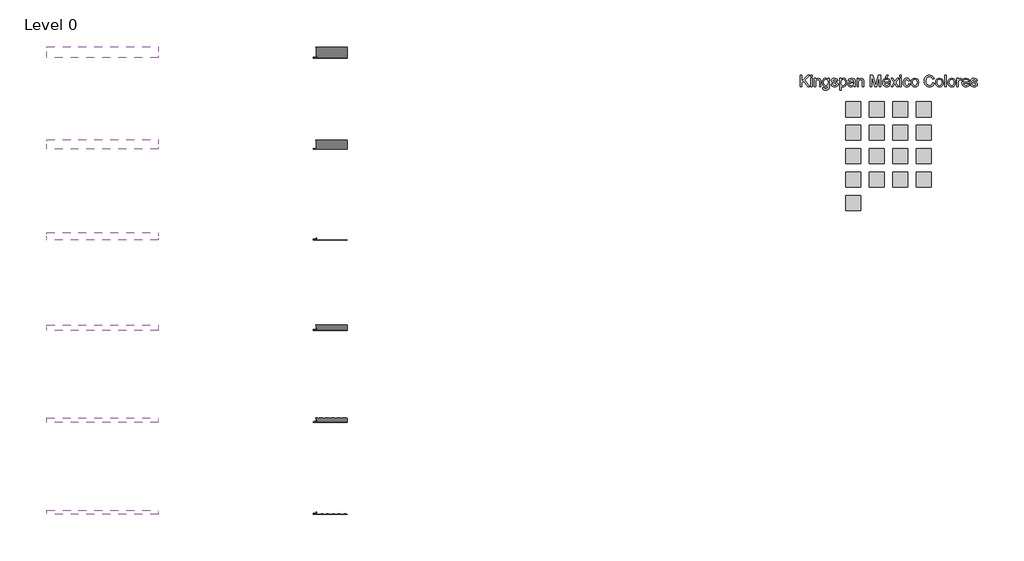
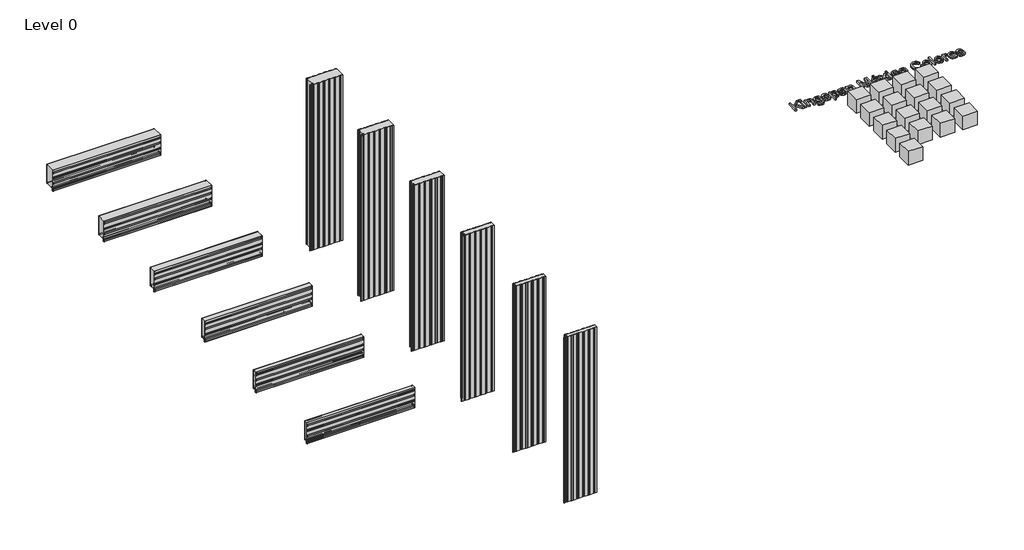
# One storey, incomplete: 18 proxies, 12 plates.
"""IFC4 building model written with IfcOpenShell, lengths in millimetres."""

from ifc_helpers import new_model, si_unit, origin, place, context, project, spatial, transform, mapped, element, save
from components import generic_models_b1469a46, ks_colour_sample_ks_colour_sample_0243efec, hz_050mm_5bb0dca9, hz_060mm_0e53f6a9, hz_075mm_a357266a, hz_100mm_cce7cdb2, hz_125mm_621c7a76, hz_150mm_8d4023c2, vt_050mm_9e8c6ad0, vt_060mm_d385d6ef, vt_075mm_737b0a10, vt_100mm_c336441d, vt_125mm_fb1efc63, vt_150mm_fdc8ce0f

model = new_model("IFC4")

# Units and contexts
model_context = context("Model", 3, world=origin())
ifc_project = project(units=[si_unit("LENGTHUNIT", "METRE", prefix="MILLI")], contexts=[model_context])

# Site, building, storey
site = spatial("IfcSite", under=ifc_project)
building = spatial("IfcBuilding", under=site)
storey = spatial("IfcBuildingStorey", under=building, Name="Level 0", Elevation=0.0)

# Proxies
placement = place(None, origin())
generic_models_shape = generic_models_b1469a46(model_context)
element("IfcBuildingElementProxy", 1, Name="KIP-MX_ColourRange_Spanish : KIP-MX_ColourRange_English", ObjectType="KIP-MX_ColourRange_Spanish : KIP-MX_ColourRange_English", at=placement, inside=storey, context=model_context, shape_type="MappedRepresentation", body=[
    mapped(generic_models_shape, transform((1966.0629502, 11802.7493823, 0.0), x_axis=(1.0, 0.0, 0.0), y_axis=(0.0, 1.0, 0.0), z_axis=(0.0, 0.0, 1.0))),
])
ks_colour_sample_ks_colour_sample_shape = ks_colour_sample_ks_colour_sample_0243efec(model_context)
element("IfcBuildingElementProxy", 2, Name="KS_Colour Sample : KS_Colour Sample", ObjectType="KS_Colour Sample : KS_Colour Sample", at=placement, inside=storey, context=model_context, shape_type="MappedRepresentation", body=[
    mapped(ks_colour_sample_ks_colour_sample_shape, transform((1501.0629502, 13781.2299273, 0.0), x_axis=(1.0, 0.0, 0.0), y_axis=(0.0, 1.0, 0.0), z_axis=(0.0, 0.0, 1.0))),
])
element("IfcBuildingElementProxy", 3, Name="KS_Colour Sample : KS_Colour Sample", ObjectType="KS_Colour Sample : KS_Colour Sample", at=placement, inside=storey, context=model_context, shape_type="MappedRepresentation", body=[
    mapped(ks_colour_sample_ks_colour_sample_shape, transform((1811.0629502, 13781.2299273, 0.0), x_axis=(1.0, 0.0, 0.0), y_axis=(0.0, 1.0, 0.0), z_axis=(0.0, 0.0, 1.0))),
])
element("IfcBuildingElementProxy", 4, Name="KS_Colour Sample : KS_Colour Sample", ObjectType="KS_Colour Sample : KS_Colour Sample", at=placement, inside=storey, context=model_context, shape_type="MappedRepresentation", body=[
    mapped(ks_colour_sample_ks_colour_sample_shape, transform((2121.0629502, 13781.2299273, 0.0), x_axis=(1.0, 0.0, 0.0), y_axis=(0.0, 1.0, 0.0), z_axis=(0.0, 0.0, 1.0))),
])
element("IfcBuildingElementProxy", 5, Name="KS_Colour Sample : KS_Colour Sample", ObjectType="KS_Colour Sample : KS_Colour Sample", at=placement, inside=storey, context=model_context, shape_type="MappedRepresentation", body=[
    mapped(ks_colour_sample_ks_colour_sample_shape, transform((2431.0629502, 13781.2299273, 0.0), x_axis=(1.0, 0.0, 0.0), y_axis=(0.0, 1.0, 0.0), z_axis=(0.0, 0.0, 1.0))),
])
element("IfcBuildingElementProxy", 6, Name="KS_Colour Sample : KS_Colour Sample", ObjectType="KS_Colour Sample : KS_Colour Sample", at=placement, inside=storey, context=model_context, shape_type="MappedRepresentation", body=[
    mapped(ks_colour_sample_ks_colour_sample_shape, transform((1501.0629502, 13471.2299273, 0.0), x_axis=(1.0, 0.0, 0.0), y_axis=(0.0, 1.0, 0.0), z_axis=(0.0, 0.0, 1.0))),
])
element("IfcBuildingElementProxy", 7, Name="KS_Colour Sample : KS_Colour Sample", ObjectType="KS_Colour Sample : KS_Colour Sample", at=placement, inside=storey, context=model_context, shape_type="MappedRepresentation", body=[
    mapped(ks_colour_sample_ks_colour_sample_shape, transform((1811.0629502, 13471.2299273, 0.0), x_axis=(1.0, 0.0, 0.0), y_axis=(0.0, 1.0, 0.0), z_axis=(0.0, 0.0, 1.0))),
])
element("IfcBuildingElementProxy", 8, Name="KS_Colour Sample : KS_Colour Sample", ObjectType="KS_Colour Sample : KS_Colour Sample", at=placement, inside=storey, context=model_context, shape_type="MappedRepresentation", body=[
    mapped(ks_colour_sample_ks_colour_sample_shape, transform((2121.0629502, 13471.2299273, 0.0), x_axis=(1.0, 0.0, 0.0), y_axis=(0.0, 1.0, 0.0), z_axis=(0.0, 0.0, 1.0))),
])
element("IfcBuildingElementProxy", 9, Name="KS_Colour Sample : KS_Colour Sample", ObjectType="KS_Colour Sample : KS_Colour Sample", at=placement, inside=storey, context=model_context, shape_type="MappedRepresentation", body=[
    mapped(ks_colour_sample_ks_colour_sample_shape, transform((2431.0629502, 13471.2299273, 0.0), x_axis=(1.0, 0.0, 0.0), y_axis=(0.0, 1.0, 0.0), z_axis=(0.0, 0.0, 1.0))),
])
element("IfcBuildingElementProxy", 10, Name="KS_Colour Sample : KS_Colour Sample", ObjectType="KS_Colour Sample : KS_Colour Sample", at=placement, inside=storey, context=model_context, shape_type="MappedRepresentation", body=[
    mapped(ks_colour_sample_ks_colour_sample_shape, transform((1501.0629502, 13161.2299273, 0.0), x_axis=(1.0, 0.0, 0.0), y_axis=(0.0, 1.0, 0.0), z_axis=(0.0, 0.0, 1.0))),
])
element("IfcBuildingElementProxy", 11, Name="KS_Colour Sample : KS_Colour Sample", ObjectType="KS_Colour Sample : KS_Colour Sample", at=placement, inside=storey, context=model_context, shape_type="MappedRepresentation", body=[
    mapped(ks_colour_sample_ks_colour_sample_shape, transform((1811.0629502, 13161.2299273, 0.0), x_axis=(1.0, 0.0, 0.0), y_axis=(0.0, 1.0, 0.0), z_axis=(0.0, 0.0, 1.0))),
])
element("IfcBuildingElementProxy", 12, Name="KS_Colour Sample : KS_Colour Sample", ObjectType="KS_Colour Sample : KS_Colour Sample", at=placement, inside=storey, context=model_context, shape_type="MappedRepresentation", body=[
    mapped(ks_colour_sample_ks_colour_sample_shape, transform((2121.0629502, 13161.2299273, 0.0), x_axis=(1.0, 0.0, 0.0), y_axis=(0.0, 1.0, 0.0), z_axis=(0.0, 0.0, 1.0))),
])
element("IfcBuildingElementProxy", 13, Name="KS_Colour Sample : KS_Colour Sample", ObjectType="KS_Colour Sample : KS_Colour Sample", at=placement, inside=storey, context=model_context, shape_type="MappedRepresentation", body=[
    mapped(ks_colour_sample_ks_colour_sample_shape, transform((2431.0629502, 13161.2299273, 0.0), x_axis=(1.0, 0.0, 0.0), y_axis=(0.0, 1.0, 0.0), z_axis=(0.0, 0.0, 1.0))),
])
element("IfcBuildingElementProxy", 14, Name="KS_Colour Sample : KS_Colour Sample", ObjectType="KS_Colour Sample : KS_Colour Sample", at=placement, inside=storey, context=model_context, shape_type="MappedRepresentation", body=[
    mapped(ks_colour_sample_ks_colour_sample_shape, transform((1501.0629502, 12851.2299273, 0.0), x_axis=(1.0, 0.0, 0.0), y_axis=(0.0, 1.0, 0.0), z_axis=(0.0, 0.0, 1.0))),
])
element("IfcBuildingElementProxy", 15, Name="KS_Colour Sample : KS_Colour Sample", ObjectType="KS_Colour Sample : KS_Colour Sample", at=placement, inside=storey, context=model_context, shape_type="MappedRepresentation", body=[
    mapped(ks_colour_sample_ks_colour_sample_shape, transform((1811.0629502, 12851.2299273, 0.0), x_axis=(1.0, 0.0, 0.0), y_axis=(0.0, 1.0, 0.0), z_axis=(0.0, 0.0, 1.0))),
])
element("IfcBuildingElementProxy", 16, Name="KS_Colour Sample : KS_Colour Sample", ObjectType="KS_Colour Sample : KS_Colour Sample", at=placement, inside=storey, context=model_context, shape_type="MappedRepresentation", body=[
    mapped(ks_colour_sample_ks_colour_sample_shape, transform((2121.0629502, 12851.2299273, 0.0), x_axis=(1.0, 0.0, 0.0), y_axis=(0.0, 1.0, 0.0), z_axis=(0.0, 0.0, 1.0))),
])
element("IfcBuildingElementProxy", 17, Name="KS_Colour Sample : KS_Colour Sample", ObjectType="KS_Colour Sample : KS_Colour Sample", at=placement, inside=storey, context=model_context, shape_type="MappedRepresentation", body=[
    mapped(ks_colour_sample_ks_colour_sample_shape, transform((2431.0629502, 12851.2299273, 0.0), x_axis=(1.0, 0.0, 0.0), y_axis=(0.0, 1.0, 0.0), z_axis=(0.0, 0.0, 1.0))),
])
element("IfcBuildingElementProxy", 18, Name="KS_Colour Sample : KS_Colour Sample", ObjectType="KS_Colour Sample : KS_Colour Sample", at=placement, inside=storey, context=model_context, shape_type="MappedRepresentation", body=[
    mapped(ks_colour_sample_ks_colour_sample_shape, transform((1501.0629502, 12541.2299273, 0.0), x_axis=(1.0, 0.0, 0.0), y_axis=(0.0, 1.0, 0.0), z_axis=(0.0, 0.0, 1.0))),
])

# Plates
hz_050mm_shape = hz_050mm_5bb0dca9(model_context)
element("IfcPlate", 19, ObjectType="KIP-MEX-KSS-1067-R19-CP-Hz-SL_SL : Hz 050mm", at=placement, inside=storey, context=model_context, shape_type="MappedRepresentation", body=[
    mapped(hz_050mm_shape, transform((-8438.7250935, 8468.7418563, 2134.0), x_axis=(1.0, 0.0, 0.0), y_axis=(0.0, 1.0, 0.0), z_axis=(0.0, 0.0, 1.0))),
])
hz_060mm_shape = hz_060mm_0e53f6a9(model_context)
element("IfcPlate", 20, ObjectType="KIP-MEX-KSS-1067-R19-CP-Hz-SL_SL : Hz 060mm", at=placement, inside=storey, context=model_context, shape_type="MappedRepresentation", body=[
    mapped(hz_060mm_shape, transform((-8438.7250935, 9693.0962077, 2134.0), x_axis=(1.0, 0.0, 0.0), y_axis=(0.0, 1.0, 0.0), z_axis=(0.0, 0.0, 1.0))),
])
hz_075mm_shape = hz_075mm_a357266a(model_context)
element("IfcPlate", 21, ObjectType="KIP-MEX-KSS-1067-R19-CP-Hz-SL_SL : Hz 075mm", at=placement, inside=storey, context=model_context, shape_type="MappedRepresentation", body=[
    mapped(hz_075mm_shape, transform((-8438.7250935, 10927.2962077, 2134.0), x_axis=(1.0, 0.0, 0.0), y_axis=(0.0, 1.0, 0.0), z_axis=(0.0, 0.0, 1.0))),
])
hz_100mm_shape = hz_100mm_cce7cdb2(model_context)
element("IfcPlate", 22, ObjectType="KIP-MEX-KSS-1067-R19-CP-Hz-SL_SL : Hz 100mm", at=placement, inside=storey, context=model_context, shape_type="MappedRepresentation", body=[
    mapped(hz_100mm_shape, transform((-8438.7250935, 12150.3733554, 2134.0), x_axis=(1.0, 0.0, 0.0), y_axis=(0.0, 1.0, 0.0), z_axis=(0.0, 0.0, 1.0))),
])
hz_125mm_shape = hz_125mm_621c7a76(model_context)
element("IfcPlate", 23, ObjectType="KIP-MEX-KSS-1067-R19-CP-Hz-SL_SL : Hz 125mm", at=placement, inside=storey, context=model_context, shape_type="MappedRepresentation", body=[
    mapped(hz_125mm_shape, transform((-8438.7250935, 13377.5488626, 2134.0), x_axis=(1.0, 0.0, 0.0), y_axis=(0.0, 1.0, 0.0), z_axis=(0.0, 0.0, 1.0))),
])
hz_150mm_shape = hz_150mm_8d4023c2(model_context)
element("IfcPlate", 24, ObjectType="KIP-MEX-KSS-1067-R19-CP-Hz-SL_SL : Hz 150mm", at=placement, inside=storey, context=model_context, shape_type="MappedRepresentation", body=[
    mapped(hz_150mm_shape, transform((-8438.7250935, 14614.4207339, 2134.0), x_axis=(1.0, 0.0, 0.0), y_axis=(0.0, 1.0, 0.0), z_axis=(0.0, 0.0, 1.0))),
])
vt_050mm_shape = vt_050mm_9e8c6ad0(model_context)
element("IfcPlate", 25, ObjectType="KIP-MEX-KSS-1067-R19-CP-Vt-SL_SL : Vt 050mm", at=placement, inside=storey, context=model_context, shape_type="MappedRepresentation", body=[
    mapped(vt_050mm_shape, transform((-5405.4413834, 8468.7418563, 0.0), x_axis=(1.0, 0.0, 0.0), y_axis=(0.0, 1.0, 0.0), z_axis=(0.0, 0.0, 1.0))),
])
vt_060mm_shape = vt_060mm_d385d6ef(model_context)
element("IfcPlate", 26, ObjectType="KIP-MEX-KSS-1067-R19-CP-Vt-SL_SL : Vt 060mm", at=placement, inside=storey, context=model_context, shape_type="MappedRepresentation", body=[
    mapped(vt_060mm_shape, transform((-5405.4413834, 9693.0962077, 0.0), x_axis=(1.0, 0.0, 0.0), y_axis=(0.0, 1.0, 0.0), z_axis=(0.0, 0.0, 1.0))),
])
vt_075mm_shape = vt_075mm_737b0a10(model_context)
element("IfcPlate", 27, ObjectType="KIP-MEX-KSS-1067-R19-CP-Vt-SL_SL : Vt 075mm", at=placement, inside=storey, context=model_context, shape_type="MappedRepresentation", body=[
    mapped(vt_075mm_shape, transform((-5405.4413834, 10927.2962077, 0.0), x_axis=(1.0, 0.0, 0.0), y_axis=(0.0, 1.0, 0.0), z_axis=(0.0, 0.0, 1.0))),
])
vt_100mm_shape = vt_100mm_c336441d(model_context)
element("IfcPlate", 28, ObjectType="KIP-MEX-KSS-1067-R19-CP-Vt-SL_SL : Vt 100mm", at=placement, inside=storey, context=model_context, shape_type="MappedRepresentation", body=[
    mapped(vt_100mm_shape, transform((-5405.4413834, 12150.3733554, 0.0), x_axis=(1.0, 0.0, 0.0), y_axis=(0.0, 1.0, 0.0), z_axis=(0.0, 0.0, 1.0))),
])
vt_125mm_shape = vt_125mm_fb1efc63(model_context)
element("IfcPlate", 29, ObjectType="KIP-MEX-KSS-1067-R19-CP-Vt-SL_SL : Vt 125mm", at=placement, inside=storey, context=model_context, shape_type="MappedRepresentation", body=[
    mapped(vt_125mm_shape, transform((-5405.4413834, 13377.5488626, 0.0), x_axis=(1.0, 0.0, 0.0), y_axis=(0.0, 1.0, 0.0), z_axis=(0.0, 0.0, 1.0))),
])
vt_150mm_shape = vt_150mm_fdc8ce0f(model_context)
element("IfcPlate", 30, ObjectType="KIP-MEX-KSS-1067-R19-CP-Vt-SL_SL : Vt 150mm", at=placement, inside=storey, context=model_context, shape_type="MappedRepresentation", body=[
    mapped(vt_150mm_shape, transform((-5405.4413834, 14609.2486688, 0.0), x_axis=(1.0, 0.0, 0.0), y_axis=(0.0, 1.0, 0.0), z_axis=(0.0, 0.0, 1.0))),
])

save(model, "model.ifc")
